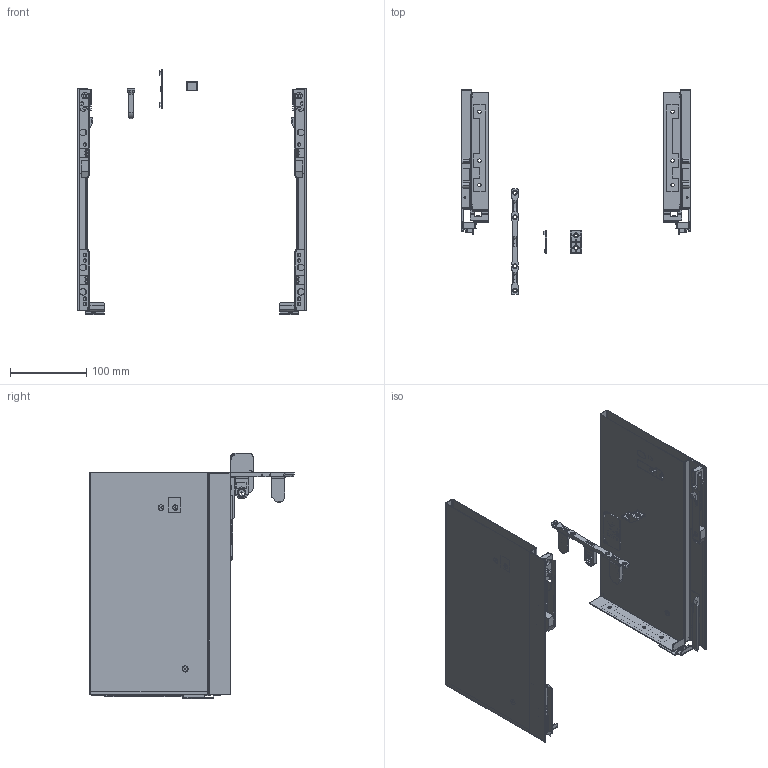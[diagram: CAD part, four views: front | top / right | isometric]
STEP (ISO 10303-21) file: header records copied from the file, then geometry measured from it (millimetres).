
FILE_DESCRIPTION (( 'STEP AP203' ), '1' );
FILE_NAME ('374221.STEP', '2026-02-11T09:10:14', ( '' ), ( '' ), 'SwSTEP 2.0', 'SolidWorks 2025', '' );
FILE_SCHEMA (( 'CONFIG_CONTROL_DESIGN' ));
Length unit declared in the file: millimetre
Products named in the file (6): 374221; Bočnice_16-185-300; Bočnice pravá_16-185-300; vyztuha dna jednoduchá; trn 185; víčko plast 51x30 STRONG
Assembly tree (5 placements, depth 2):
  374221
    Bočnice_16-185-300
    Bočnice pravá_16-185-300
    trn 185
    víčko plast 51x30 STRONG
    vyztuha dna jednoduchá
Bounding box: 300 x 268 x 321.4 mm (x, y, z)
Volume: 223546 mm3; surface area: 523283.3 mm2
Topology: 28 solids, 28 shells, 1782 faces, 4738 edges, 3016 vertices
Faces by surface type: plane 1137, cylinder 524, bspline 97, cone 24
Entity records: 58186 total; most frequent: CARTESIAN_POINT 13331, ORIENTED_EDGE 9476, DIRECTION 8782, EDGE_CURVE 4738, LINE 3432, VECTOR 3432, VERTEX_POINT 3016, AXIS2_PLACEMENT_3D 2675
